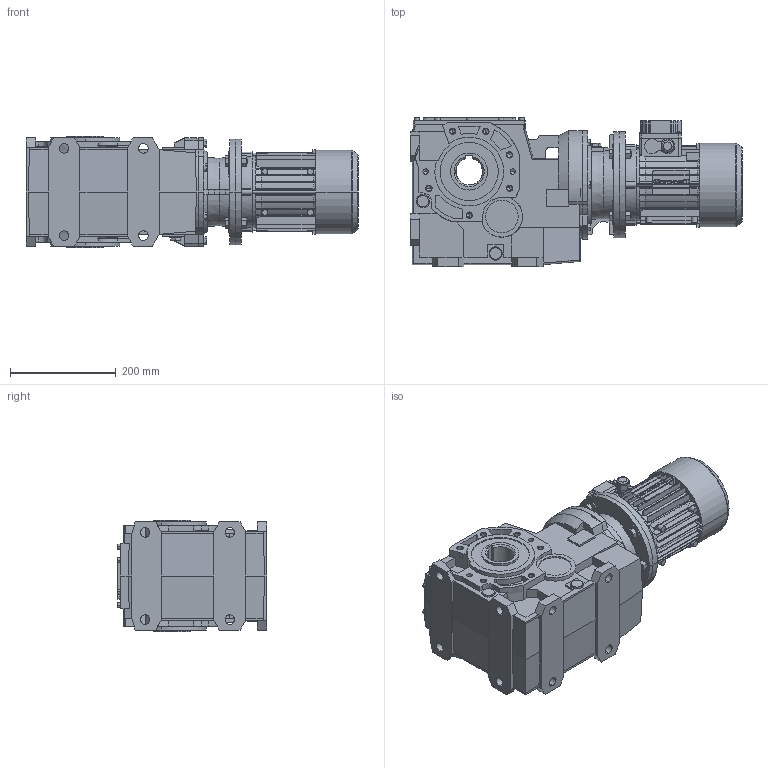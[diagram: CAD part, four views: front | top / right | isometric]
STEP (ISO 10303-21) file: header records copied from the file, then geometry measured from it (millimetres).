
FILE_DESCRIPTION( ( '' ), '1' );
FILE_NAME( '//expscmdclustefs.cadenas.external/client_exchange/iodir/jobs/output/wkb50658629_no0/STEP/B103UC8_1380_B550000000T0801_2_03.stp', '2012-11-01T00:06:45', ( '' ), ( '' ), ' ', ' ', ' ' );
FILE_SCHEMA( ( 'CONFIG_CONTROL_DESIGN' ) );
Length unit declared in the file: millimetre
Products named in the file (10): 1; 2; 3; 4; 5; 6; 7; 8; 9; 10
Bounding box: 628 x 283 x 210 mm (x, y, z)
Volume: 19138937.1 mm3; surface area: 1167479.3 mm2
Topology: 10 solids, 10 shells, 2544 faces, 6963 edges, 4580 vertices
Faces by surface type: plane 1397, cylinder 990, cone 144, torus 9, sphere 4
Entity records: 82082 total; most frequent: CARTESIAN_POINT 15630, DIRECTION 14114, ORIENTED_EDGE 13858, EDGE_CURVE 6929, AXIS2_PLACEMENT_3D 4891, VERTEX_POINT 4580, LINE 4332, VECTOR 4332
